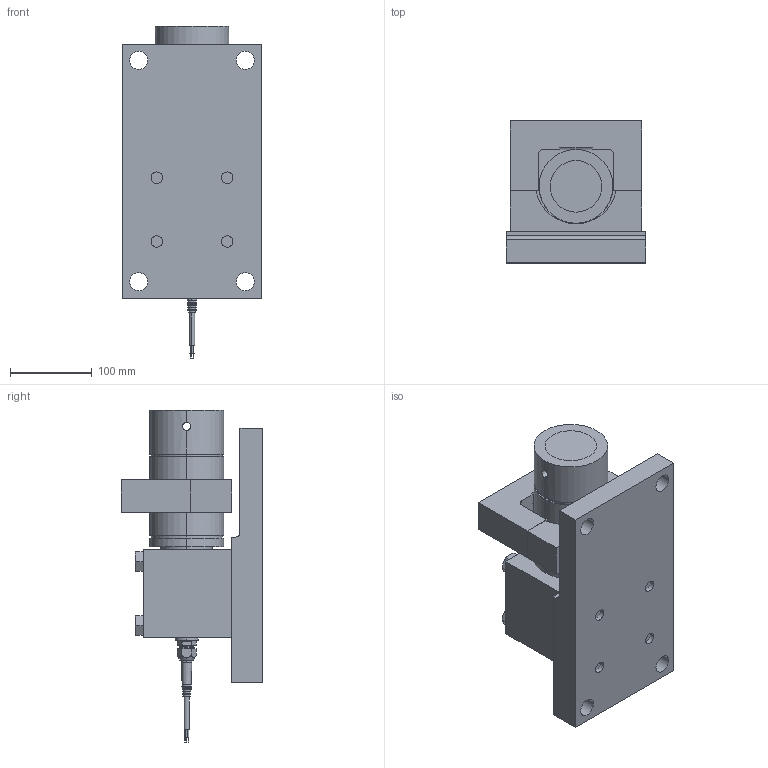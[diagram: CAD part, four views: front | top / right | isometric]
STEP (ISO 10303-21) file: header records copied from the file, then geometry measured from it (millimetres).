
FILE_DESCRIPTION (( 'STEP AP214' ), '1' );
FILE_NAME ('KIS-8 100 kN Module.STEP', '2021-06-30T10:38:20', ( '' ), ( '' ), 'SwSTEP 2.0', 'SolidWorks 2021', '' );
FILE_SCHEMA (( 'AUTOMOTIVE_DESIGN' ));
Length unit declared in the file: millimetre
Products named in the file (11): 400440r2 OK KIS-8 100 kN; 500413r0  tippskydd KIS-8 100 kN; 400685r1; M26x1.5 - Pg9 - 6369829; 400687r1 Platta KIS-8 100 kN; KIS-8 100 kN Module; Pg9 - 1009.52 6_2_14; 400683r1; 400681r2; M16x140; Standardkabel 4-Cond PVC
Assembly tree (13 placements, depth 2):
  KIS-8 100 kN Module
    400681r2
    400683r1
    400685r1
    M26x1.5 - Pg9 - 6369829
    Pg9 - 1009.52 6_2_14
    400440r2 OK KIS-8 100 kN
    400687r1 Platta KIS-8 100 kN
    Standardkabel 4-Cond PVC
    500413r0  tippskydd KIS-8 100 kN
    M16x140  x4
Bounding box: 170 x 173 x 405 mm (x, y, z)
Volume: 4608555.1 mm3; surface area: 547102.3 mm2
Topology: 13 solids, 16 shells, 392 faces, 933 edges, 594 vertices
Faces by surface type: cylinder 166, plane 125, cone 75, bspline 16, torus 10
Entity records: 15392 total; most frequent: CARTESIAN_POINT 6635, DIRECTION 1613, ORIENTED_EDGE 1542, EDGE_CURVE 771, AXIS2_PLACEMENT_3D 660, VERTEX_POINT 492, EDGE_LOOP 395, CIRCLE 337
